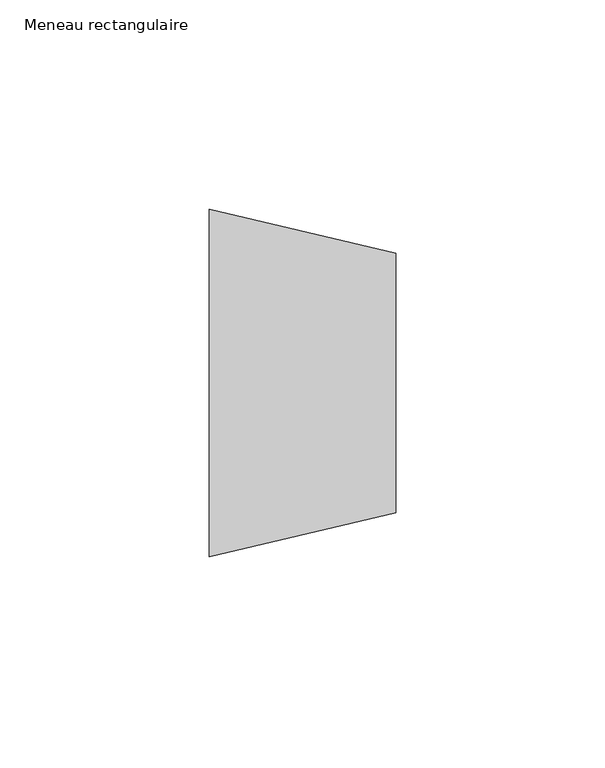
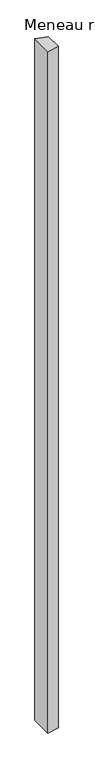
"""IFC4 building model written with IfcOpenShell, lengths in millimetres: member geometry, Meneau rectangulaire : JONCTION-T3S-GAUCHE 85-T3S."""

from ifc_helpers import new_model, si_unit, frame, origin, place, context, project, spatial, polyline, outline, extrude, source, transform, mapped, element, save


def meneau_rectangulaire_c82f2622(model_context):
    return source(origin(), model_context, "Body", "SweptSolid", [
        extrude(outline(polyline([(-44.5, -41.5), (-44.5, 41.5), (0.0, 31.0), (0.0, -31.0), (-44.5, -41.5)])), frame((0.0, 0.0, -2685.0), z_axis=(0.0, 0.0, 1.0), x_axis=(1.0, 0.0, 0.0)), (0.0, 0.0, 1.0), 2685.0),
    ])


if __name__ == "__main__":
    model = new_model("IFC4")
    model_context = context("Model", 3, world=origin())
    ifc_project = project(units=[si_unit("LENGTHUNIT", "METRE", prefix="MILLI")], contexts=[model_context])
    site = spatial("IfcSite", under=ifc_project)
    building = spatial("IfcBuilding", under=site)
    placement = place(None, origin())
    meneau_rectangulaire_shape = meneau_rectangulaire_c82f2622(model_context)
    element("IfcMember", 1, ObjectType="Meneau rectangulaire : JONCTION-T3S-GAUCHE 85-T3S", at=placement, inside=building, context=model_context, shape_type="MappedRepresentation", body=[
        mapped(meneau_rectangulaire_shape, transform((0.0, 0.0, 0.0), x_axis=(1.0, 0.0, 0.0), y_axis=(0.0, 1.0, 0.0), z_axis=(0.0, 0.0, 1.0))),
    ])
    save(model, "model.ifc")
